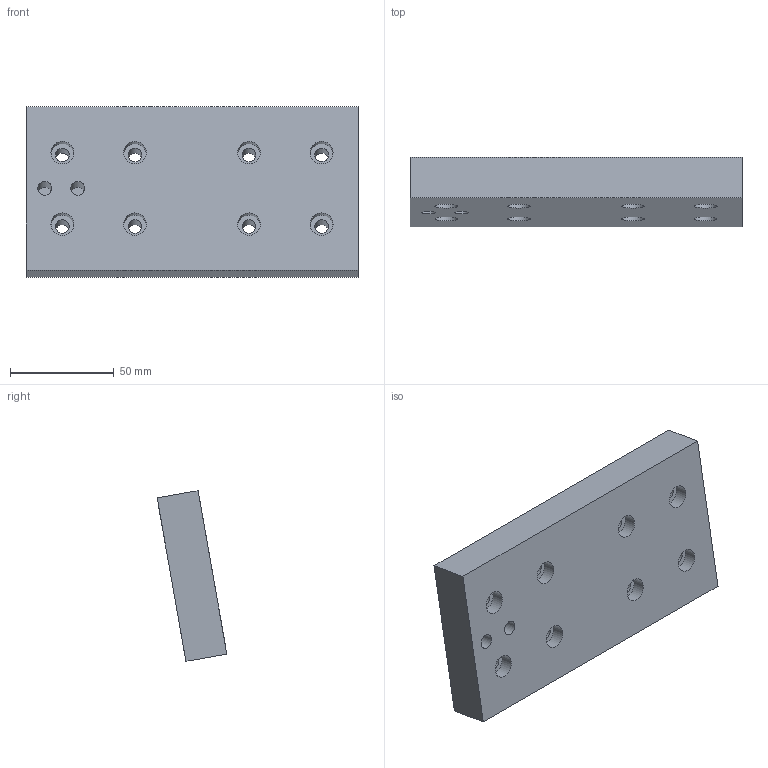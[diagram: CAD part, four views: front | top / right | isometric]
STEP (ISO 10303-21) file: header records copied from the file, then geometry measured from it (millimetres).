
FILE_DESCRIPTION(('golf model'),'2;1');
FILE_NAME('golf','',(''),(''),'golf_step_io','golf','');
FILE_SCHEMA(('AUTOMOTIVE_DESIGN { 1 0 10303 214 1 1 1 1 }'));
Length unit declared in the file: millimetre
Products named in the file (2): ASSEMBLY; gantry_frame.foot_bottom_base
Assembly tree (1 placements, depth 2):
  ASSEMBLY
    gantry_frame.foot_bottom_base
Bounding box: 160 x 33.59 x 82.26 mm (x, y, z)
Volume: 245868.7 mm3; surface area: 39689.2 mm2
Topology: 1 solids, 1 shells, 38 faces, 74 edges, 50 vertices
Faces by surface type: cylinder 20, plane 18
Full cylindrical faces by diameter (mm): 4.2 x2, 6.6 x8, 6.8 x2, 11 x8
Entity records: 942 total; most frequent: DIRECTION 172, CARTESIAN_POINT 140, ORIENTED_EDGE 104, EDGE_LOOP 86, AXIS2_PLACEMENT_3D 80, FACE_BOUND 75, EDGE_CURVE 52, VERTEX_POINT 48
